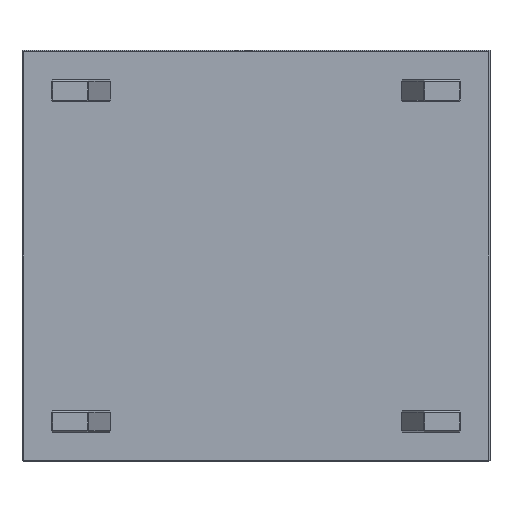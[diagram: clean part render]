
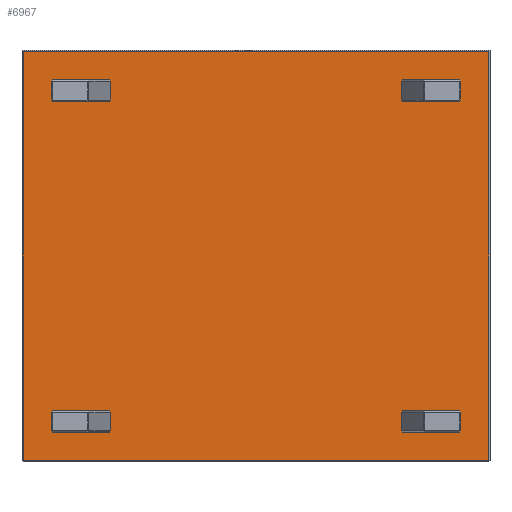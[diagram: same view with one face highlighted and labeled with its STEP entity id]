
A CAD part, front view. The second image highlights one B-rep face of the part: STEP entity #6967.
In plain terms, the highlighted planar face has unit normal (0, -1, 0).
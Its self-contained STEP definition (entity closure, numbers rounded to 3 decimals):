
#137=FACE_OUTER_BOUND('',#600,.T.);
#600=EDGE_LOOP('',(#4669,#4670,#4671,#4672));
#1044=LINE('',#9892,#2006);
#1082=LINE('',#9967,#2044);
#1084=LINE('',#9970,#2046);
#1088=LINE('',#9981,#2050);
#2006=VECTOR('',#7938,10.);
#2044=VECTOR('',#8002,10.);
#2046=VECTOR('',#8006,10.);
#2050=VECTOR('',#8020,10.);
#2967=VERTEX_POINT('',#9890);
#2968=VERTEX_POINT('',#9891);
#2971=VERTEX_POINT('',#9899);
#2979=VERTEX_POINT('',#9916);
#3532=EDGE_CURVE('',#2967,#2968,#1044,.T.);
#3570=EDGE_CURVE('',#2971,#2979,#1082,.T.);
#3572=EDGE_CURVE('',#2979,#2967,#1084,.T.);
#3578=EDGE_CURVE('',#2968,#2971,#1088,.T.);
#4669=ORIENTED_EDGE('',*,*,#3570,.F.);
#4670=ORIENTED_EDGE('',*,*,#3578,.F.);
#4671=ORIENTED_EDGE('',*,*,#3532,.F.);
#4672=ORIENTED_EDGE('',*,*,#3572,.F.);
#6523=PLANE('',#7464);
#6967=ADVANCED_FACE('',(#137),#6523,.F.);
#7464=AXIS2_PLACEMENT_3D('',#10042,#8086,#8087);
#7938=DIRECTION('',(1.,0.,0.));
#8002=DIRECTION('',(-1.,0.,0.));
#8006=DIRECTION('',(0.,0.,1.));
#8020=DIRECTION('',(0.,0.,-1.));
#8086=DIRECTION('center_axis',(0.,1.,0.));
#8087=DIRECTION('ref_axis',(1.,0.,0.));
#9890=CARTESIAN_POINT('',(-197.,0.,172.));
#9891=CARTESIAN_POINT('',(197.,0.,172.));
#9892=CARTESIAN_POINT('',(-100.,0.,172.));
#9899=CARTESIAN_POINT('',(197.,0.,-174.));
#9916=CARTESIAN_POINT('',(-197.,0.,-174.));
#9967=CARTESIAN_POINT('',(100.,0.,-174.));
#9970=CARTESIAN_POINT('',(-197.,0.,-87.5));
#9981=CARTESIAN_POINT('',(197.,0.,87.5));
#10042=CARTESIAN_POINT('Origin',(0.,0.,0.));
